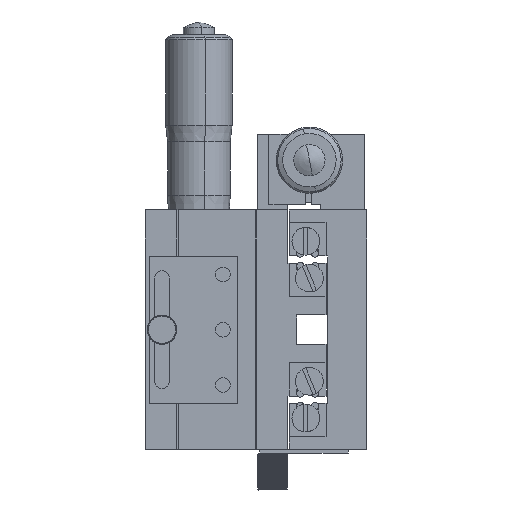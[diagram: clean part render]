
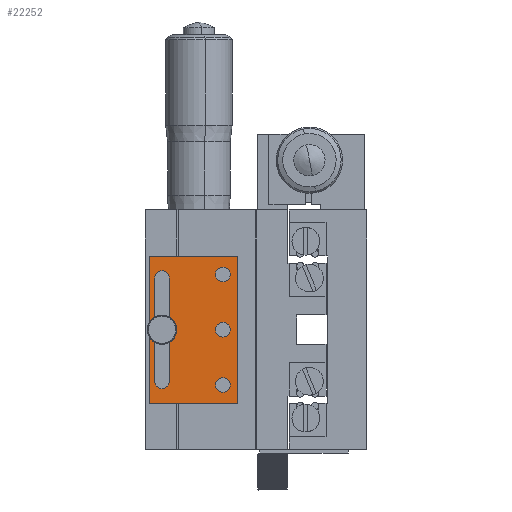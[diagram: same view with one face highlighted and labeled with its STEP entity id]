
A CAD part, left-side view. The second image highlights one B-rep face of the part: STEP entity #22252.
In plain terms, the highlighted planar face has unit normal (-1, 0, 0).
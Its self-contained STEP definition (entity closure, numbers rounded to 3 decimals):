
#37 = DIRECTION ( 'NONE',  ( 0., 0., 1. ) ) ;
#155 = EDGE_CURVE ( 'NONE', #43920, #41184, #23225, .T. ) ;
#971 = VERTEX_POINT ( 'NONE', #39827 ) ;
#1015 = DIRECTION ( 'NONE',  ( 0., 0., -1. ) ) ;
#1742 = DIRECTION ( 'NONE',  ( 0., 0., -1. ) ) ;
#1743 = LINE ( 'NONE', #29936, #20543 ) ;
#1822 = ORIENTED_EDGE ( 'NONE', *, *, #5650, .F. ) ;
#1834 = CARTESIAN_POINT ( 'NONE',  ( -44.021, 24.651, 104.5 ) ) ;
#2201 = CARTESIAN_POINT ( 'NONE',  ( -44.021, 8.151, 92.5 ) ) ;
#2620 = ORIENTED_EDGE ( 'NONE', *, *, #8853, .T. ) ;
#3157 = CARTESIAN_POINT ( 'NONE',  ( -44.021, 22.651, 104.5 ) ) ;
#3264 = LINE ( 'NONE', #15969, #42004 ) ;
#4310 = ORIENTED_EDGE ( 'NONE', *, *, #34805, .F. ) ;
#4846 = FACE_BOUND ( 'NONE', #12946, .T. ) ;
#5485 = DIRECTION ( 'NONE',  ( -1., 0., 0. ) ) ;
#5524 = CIRCLE ( 'NONE', #34155, 2. ) ;
#5603 = DIRECTION ( 'NONE',  ( 0., 0., -1. ) ) ;
#5650 = EDGE_CURVE ( 'NONE', #45306, #42134, #25262, .T. ) ;
#5823 = VECTOR ( 'NONE', #45515, 1000. ) ;
#6740 = VERTEX_POINT ( 'NONE', #15228 ) ;
#6874 = CARTESIAN_POINT ( 'NONE',  ( -44.021, 8.151, 75.5 ) ) ;
#7079 = AXIS2_PLACEMENT_3D ( 'NONE', #8468, #34695, #12234 ) ;
#7323 = EDGE_CURVE ( 'NONE', #48324, #41991, #9896, .T. ) ;
#7686 = AXIS2_PLACEMENT_3D ( 'NONE', #46703, #24207, #1742 ) ;
#8144 = DIRECTION ( 'NONE',  ( 1., 0., 0. ) ) ;
#8316 = AXIS2_PLACEMENT_3D ( 'NONE', #34077, #11621, #37846 ) ;
#8468 = CARTESIAN_POINT ( 'NONE',  ( -44.021, 8.151, 90.5 ) ) ;
#8703 = VECTOR ( 'NONE', #37, 1000. ) ;
#8853 = EDGE_CURVE ( 'NONE', #41606, #11519, #1743, .T. ) ;
#9330 = ORIENTED_EDGE ( 'NONE', *, *, #21370, .F. ) ;
#9896 = LINE ( 'NONE', #30068, #8703 ) ;
#10357 = VECTOR ( 'NONE', #10608, 1000. ) ;
#10414 = EDGE_LOOP ( 'NONE', ( #19619, #32703 ) ) ;
#10608 = DIRECTION ( 'NONE',  ( 0., -1., 0. ) ) ;
#10657 = DIRECTION ( 'NONE',  ( 0., 0., 1. ) ) ;
#10857 = CARTESIAN_POINT ( 'NONE',  ( -44.021, 8.151, 75.5 ) ) ;
#11253 = DIRECTION ( 'NONE',  ( 0., 0., -1. ) ) ;
#11311 = ORIENTED_EDGE ( 'NONE', *, *, #20180, .F. ) ;
#11518 = VECTOR ( 'NONE', #48170, 1000. ) ;
#11519 = VERTEX_POINT ( 'NONE', #36332 ) ;
#11621 = DIRECTION ( 'NONE',  ( -1., 0., 0. ) ) ;
#11689 = CARTESIAN_POINT ( 'NONE',  ( -44.021, 8.151, 107.5 ) ) ;
#12234 = DIRECTION ( 'NONE',  ( 0., 0., 1. ) ) ;
#12566 = EDGE_CURVE ( 'NONE', #6740, #971, #31452, .T. ) ;
#12664 = AXIS2_PLACEMENT_3D ( 'NONE', #37338, #14875, #41120 ) ;
#12743 = CARTESIAN_POINT ( 'NONE',  ( -44.021, 8.151, 105.5 ) ) ;
#12913 = CARTESIAN_POINT ( 'NONE',  ( -44.021, 16.151, 90.5 ) ) ;
#12920 = CARTESIAN_POINT ( 'NONE',  ( -44.021, 24.651, 106.5 ) ) ;
#12946 = EDGE_LOOP ( 'NONE', ( #1822, #17451 ) ) ;
#13710 = FACE_BOUND ( 'NONE', #37321, .T. ) ;
#14615 = DIRECTION ( 'NONE',  ( 0., 0., 1. ) ) ;
#14875 = DIRECTION ( 'NONE',  ( -1., 0., 0. ) ) ;
#15228 = CARTESIAN_POINT ( 'NONE',  ( -44.021, 28.151, 70.5 ) ) ;
#15969 = CARTESIAN_POINT ( 'NONE',  ( -44.021, 4.151, 110.5 ) ) ;
#16382 = EDGE_CURVE ( 'NONE', #41991, #27928, #31750, .T. ) ;
#16512 = DIRECTION ( 'NONE',  ( 0., 0., 1. ) ) ;
#16749 = ORIENTED_EDGE ( 'NONE', *, *, #7323, .T. ) ;
#17451 = ORIENTED_EDGE ( 'NONE', *, *, #48133, .F. ) ;
#18458 = EDGE_CURVE ( 'NONE', #40203, #34392, #48589, .T. ) ;
#19315 = VERTEX_POINT ( 'NONE', #24766 ) ;
#19619 = ORIENTED_EDGE ( 'NONE', *, *, #155, .F. ) ;
#19961 = EDGE_CURVE ( 'NONE', #971, #22024, #20315, .T. ) ;
#20180 = EDGE_CURVE ( 'NONE', #22024, #19315, #3264, .T. ) ;
#20315 = LINE ( 'NONE', #29286, #10357 ) ;
#20543 = VECTOR ( 'NONE', #11253, 1000. ) ;
#21370 = EDGE_CURVE ( 'NONE', #34392, #40203, #5524, .T. ) ;
#22024 = VERTEX_POINT ( 'NONE', #37684 ) ;
#22252 = ADVANCED_FACE ( 'NONE', ( #33635, #23619, #4846, #26013, #13710 ), #39161, .T. ) ;
#22281 = AXIS2_PLACEMENT_3D ( 'NONE', #10857, #37073, #14615 ) ;
#22628 = AXIS2_PLACEMENT_3D ( 'NONE', #30581, #8144, #34355 ) ;
#22881 = CARTESIAN_POINT ( 'NONE',  ( -44.021, 26.651, 104.5 ) ) ;
#23008 = CARTESIAN_POINT ( 'NONE',  ( -44.021, 4.151, 70.5 ) ) ;
#23225 = CIRCLE ( 'NONE', #7079, 2. ) ;
#23619 = FACE_BOUND ( 'NONE', #42408, .T. ) ;
#23884 = CIRCLE ( 'NONE', #7686, 2. ) ;
#24207 = DIRECTION ( 'NONE',  ( 1., 0., 0. ) ) ;
#24766 = CARTESIAN_POINT ( 'NONE',  ( -44.021, 4.151, 70.5 ) ) ;
#24821 = CIRCLE ( 'NONE', #22281, 2. ) ;
#25262 = CIRCLE ( 'NONE', #36311, 2. ) ;
#25780 = LINE ( 'NONE', #23008, #5823 ) ;
#26013 = FACE_OUTER_BOUND ( 'NONE', #38658, .T. ) ;
#26870 = CARTESIAN_POINT ( 'NONE',  ( -44.021, 26.651, 76.5 ) ) ;
#27182 = ORIENTED_EDGE ( 'NONE', *, *, #19961, .F. ) ;
#27845 = CARTESIAN_POINT ( 'NONE',  ( -44.021, 8.151, 103.5 ) ) ;
#27928 = VERTEX_POINT ( 'NONE', #12920 ) ;
#28095 = DIRECTION ( 'NONE',  ( 1., 0., 0. ) ) ;
#28113 = CIRCLE ( 'NONE', #12664, 2. ) ;
#28516 = EDGE_CURVE ( 'NONE', #27928, #41606, #44240, .T. ) ;
#29286 = CARTESIAN_POINT ( 'NONE',  ( -44.021, 4.151, 110.5 ) ) ;
#29936 = CARTESIAN_POINT ( 'NONE',  ( -44.021, 22.651, 104.5 ) ) ;
#30068 = CARTESIAN_POINT ( 'NONE',  ( -44.021, 26.651, 104.5 ) ) ;
#30581 = CARTESIAN_POINT ( 'NONE',  ( -44.021, 24.651, 104.5 ) ) ;
#31452 = LINE ( 'NONE', #44368, #11518 ) ;
#31750 = CIRCLE ( 'NONE', #22628, 2. ) ;
#31754 = DIRECTION ( 'NONE',  ( 0., 0., 1. ) ) ;
#32639 = ORIENTED_EDGE ( 'NONE', *, *, #18458, .F. ) ;
#32703 = ORIENTED_EDGE ( 'NONE', *, *, #43544, .F. ) ;
#33115 = DIRECTION ( 'NONE',  ( -1., 0., 0. ) ) ;
#33635 = FACE_BOUND ( 'NONE', #10414, .T. ) ;
#33872 = AXIS2_PLACEMENT_3D ( 'NONE', #12913, #5485, #31754 ) ;
#34077 = CARTESIAN_POINT ( 'NONE',  ( -44.021, 8.151, 105.5 ) ) ;
#34155 = AXIS2_PLACEMENT_3D ( 'NONE', #12743, #38974, #16512 ) ;
#34355 = DIRECTION ( 'NONE',  ( 0., 0., -1. ) ) ;
#34392 = VERTEX_POINT ( 'NONE', #27845 ) ;
#34695 = DIRECTION ( 'NONE',  ( -1., 0., 0. ) ) ;
#34805 = EDGE_CURVE ( 'NONE', #19315, #6740, #25780, .T. ) ;
#35189 = CARTESIAN_POINT ( 'NONE',  ( -44.021, 8.151, 73.5 ) ) ;
#36311 = AXIS2_PLACEMENT_3D ( 'NONE', #6874, #33115, #10657 ) ;
#36332 = CARTESIAN_POINT ( 'NONE',  ( -44.021, 22.651, 76.5 ) ) ;
#37073 = DIRECTION ( 'NONE',  ( -1., 0., 0. ) ) ;
#37211 = EDGE_CURVE ( 'NONE', #11519, #48324, #23884, .T. ) ;
#37321 = EDGE_LOOP ( 'NONE', ( #16749, #40774, #48106, #2620, #47981 ) ) ;
#37338 = CARTESIAN_POINT ( 'NONE',  ( -44.021, 8.151, 90.5 ) ) ;
#37509 = CARTESIAN_POINT ( 'NONE',  ( -44.021, 8.151, 88.5 ) ) ;
#37684 = CARTESIAN_POINT ( 'NONE',  ( -44.021, 4.151, 110.5 ) ) ;
#37846 = DIRECTION ( 'NONE',  ( 0., 0., 1. ) ) ;
#38658 = EDGE_LOOP ( 'NONE', ( #4310, #11311, #27182, #40847 ) ) ;
#38974 = DIRECTION ( 'NONE',  ( -1., 0., 0. ) ) ;
#39161 = PLANE ( 'NONE',  #33872 ) ;
#39827 = CARTESIAN_POINT ( 'NONE',  ( -44.021, 28.151, 110.5 ) ) ;
#40203 = VERTEX_POINT ( 'NONE', #11689 ) ;
#40774 = ORIENTED_EDGE ( 'NONE', *, *, #16382, .T. ) ;
#40847 = ORIENTED_EDGE ( 'NONE', *, *, #12566, .F. ) ;
#41120 = DIRECTION ( 'NONE',  ( 0., 0., 1. ) ) ;
#41184 = VERTEX_POINT ( 'NONE', #37509 ) ;
#41606 = VERTEX_POINT ( 'NONE', #3157 ) ;
#41645 = AXIS2_PLACEMENT_3D ( 'NONE', #1834, #28095, #5603 ) ;
#41991 = VERTEX_POINT ( 'NONE', #22881 ) ;
#42004 = VECTOR ( 'NONE', #1015, 1000. ) ;
#42134 = VERTEX_POINT ( 'NONE', #35189 ) ;
#42408 = EDGE_LOOP ( 'NONE', ( #32639, #9330 ) ) ;
#43544 = EDGE_CURVE ( 'NONE', #41184, #43920, #28113, .T. ) ;
#43920 = VERTEX_POINT ( 'NONE', #2201 ) ;
#44240 = CIRCLE ( 'NONE', #41645, 2. ) ;
#44368 = CARTESIAN_POINT ( 'NONE',  ( -44.021, 28.151, 110.5 ) ) ;
#45294 = CARTESIAN_POINT ( 'NONE',  ( -44.021, 8.151, 77.5 ) ) ;
#45306 = VERTEX_POINT ( 'NONE', #45294 ) ;
#45515 = DIRECTION ( 'NONE',  ( 0., 1., 0. ) ) ;
#46703 = CARTESIAN_POINT ( 'NONE',  ( -44.021, 24.651, 76.5 ) ) ;
#47981 = ORIENTED_EDGE ( 'NONE', *, *, #37211, .T. ) ;
#48106 = ORIENTED_EDGE ( 'NONE', *, *, #28516, .T. ) ;
#48133 = EDGE_CURVE ( 'NONE', #42134, #45306, #24821, .T. ) ;
#48170 = DIRECTION ( 'NONE',  ( 0., 0., 1. ) ) ;
#48324 = VERTEX_POINT ( 'NONE', #26870 ) ;
#48589 = CIRCLE ( 'NONE', #8316, 2. ) ;
